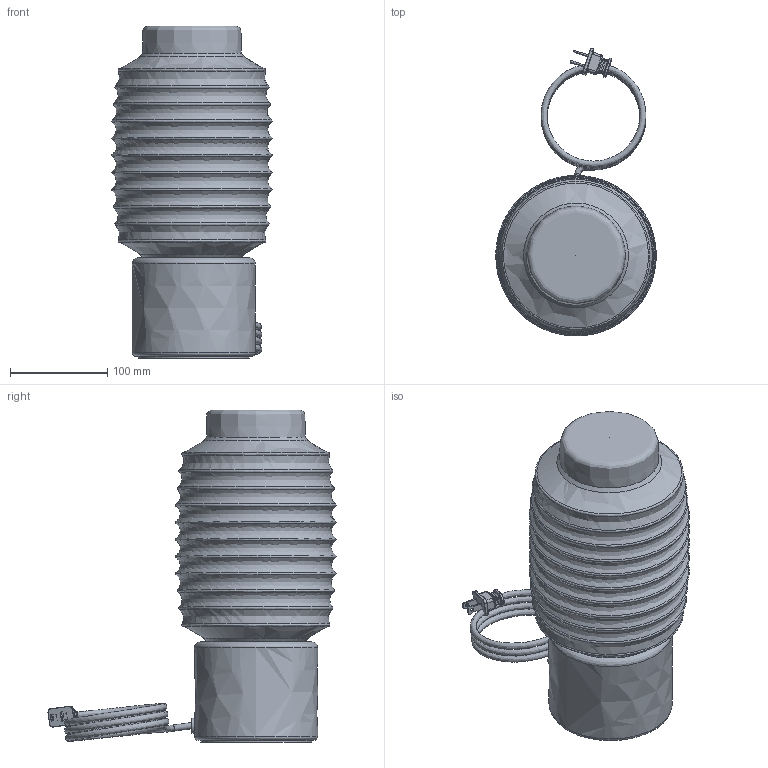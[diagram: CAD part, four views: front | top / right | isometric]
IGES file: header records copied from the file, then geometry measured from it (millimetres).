
Global section: file name: Chinois - Ionic Table Lamp - Opalia Collection; native system: unknown; preprocessor: unknown; author: unknown; organization: unknown; date: 20240726.151840; units: inch
Bounding box: 165.1 x 296.64 x 341.91 mm (x, y, z)
Volume: 1338987.2 mm3; surface area: 570611.3 mm2
Topology: 14 solids, 14 shells, 2007 faces, 5368 edges, 3535 vertices
Faces by surface type: bspline 2006, revolution 1
